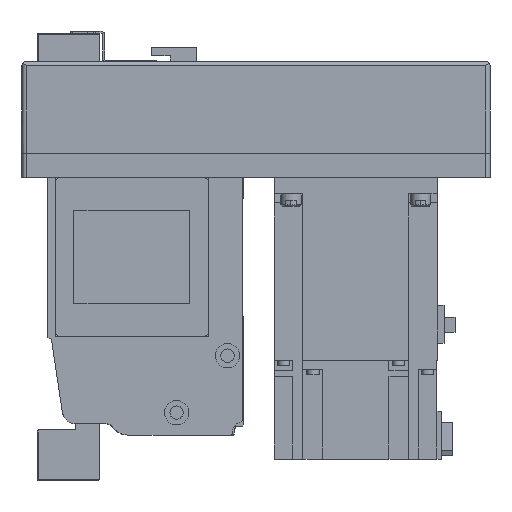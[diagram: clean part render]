
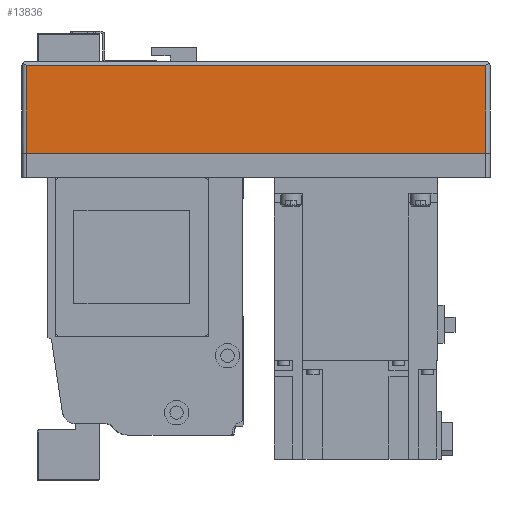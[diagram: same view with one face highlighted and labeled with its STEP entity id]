
A CAD part, left-side view. The second image highlights one B-rep face of the part: STEP entity #13836.
In plain terms, the highlighted planar face has unit normal (-1, 0, 0) as drawn and (0, -1, 0) by its records, which use the part's own axes.
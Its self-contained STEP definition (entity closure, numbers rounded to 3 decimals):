
#2381=ORIENTED_EDGE('',*,*,#5682,.F.);
#2382=ORIENTED_EDGE('',*,*,#5685,.T.);
#2383=ORIENTED_EDGE('',*,*,#5686,.T.);
#2384=ORIENTED_EDGE('',*,*,#5687,.F.);
#5682=EDGE_CURVE('',#7463,#7464,#8917,.T.);
#5685=EDGE_CURVE('',#7463,#7466,#8919,.T.);
#5686=EDGE_CURVE('',#7466,#7467,#8920,.T.);
#5687=EDGE_CURVE('',#7464,#7467,#8921,.T.);
#7463=VERTEX_POINT('',#21673);
#7464=VERTEX_POINT('',#21675);
#7466=VERTEX_POINT('',#21681);
#7467=VERTEX_POINT('',#21683);
#8917=LINE('',#21674,#10230);
#8919=LINE('',#21680,#10232);
#8920=LINE('',#21682,#10233);
#8921=LINE('',#21684,#10234);
#10230=VECTOR('',#17308,1000.);
#10232=VECTOR('',#17314,1000.);
#10233=VECTOR('',#17315,1000.);
#10234=VECTOR('',#17316,1000.);
#11354=EDGE_LOOP('',(#2381,#2382,#2383,#2384));
#12381=FACE_BOUND('',#11354,.T.);
#13258=PLANE('',#14844);
#13836=ADVANCED_FACE('',(#12381),#13258,.T.);
#14844=AXIS2_PLACEMENT_3D('',#21679,#17312,#17313);
#17308=DIRECTION('',(0.,0.,1.));
#17312=DIRECTION('',(0.,-1.,0.));
#17313=DIRECTION('',(0.,0.,-1.));
#17314=DIRECTION('',(1.,0.,0.));
#17315=DIRECTION('',(0.,0.,1.));
#17316=DIRECTION('',(1.,0.,0.));
#21673=CARTESIAN_POINT('',(-228.,-54.,-55.));
#21674=CARTESIAN_POINT('',(-228.,-54.,-57.));
#21675=CARTESIAN_POINT('',(-228.,-54.,-12.));
#21679=CARTESIAN_POINT('',(-228.,-54.,-57.));
#21680=CARTESIAN_POINT('',(-230.,-54.,-55.));
#21681=CARTESIAN_POINT('',(-2.,-54.,-55.));
#21682=CARTESIAN_POINT('',(-2.,-54.,-57.));
#21683=CARTESIAN_POINT('',(-2.,-54.,-12.));
#21684=CARTESIAN_POINT('',(-228.,-54.,-12.));
